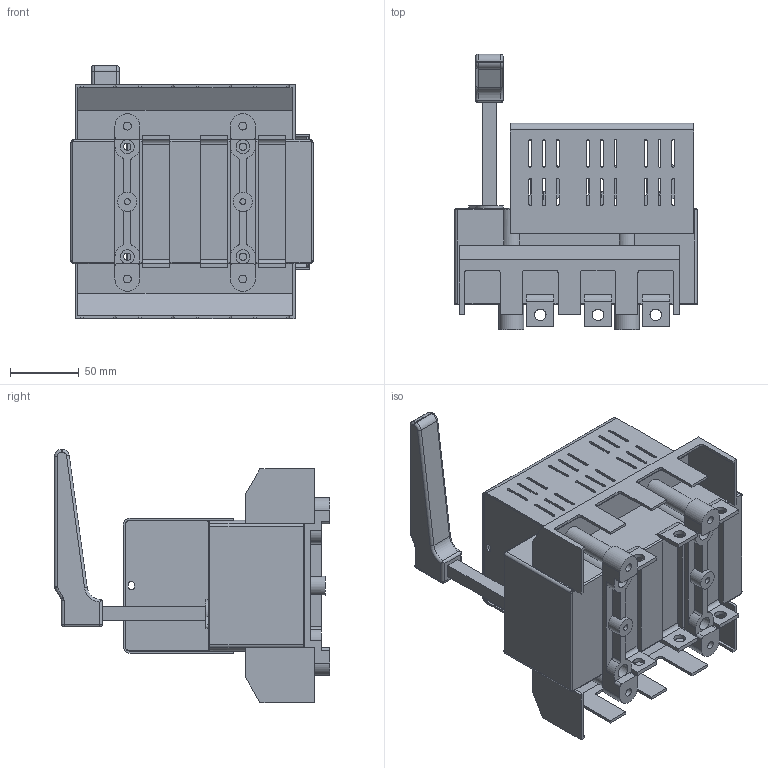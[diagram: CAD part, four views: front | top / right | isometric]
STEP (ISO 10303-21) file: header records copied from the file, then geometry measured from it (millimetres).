
FILE_DESCRIPTION(/* description */ (''),/* implementation_level */ '2;1');
FILE_NAME(/* name */ 'RAB 00 P3 C-R z oslona zaciskow.stp',/* time_stamp */ '2021-08-19T11:37:09+02:00',/* author */ (''),/* organization */ (''),/* preprocessor_version */ 'ST-DEVELOPER v18.1',/* originating_system */ 'SIEMENS PLM Software NX 1965',/* authorisation */ '');
FILE_SCHEMA (('AUTOMOTIVE_DESIGN { 1 0 10303 214 3 1 1 1 }'));
Length unit declared in the file: millimetre
Products named in the file (1): RAB 00 P3 C-R z oslona zaciskow
Bounding box: 176 x 200 x 183.9 mm (x, y, z)
Volume: 1362264.6 mm3; surface area: 292002.6 mm2
Topology: 1 solids, 1 shells, 1002 faces, 2875 edges, 1876 vertices
Faces by surface type: plane 610, cylinder 366, torus 12, bspline 8, sphere 6
Full cylindrical faces by diameter (mm): 2.7 x4, 4.3 x2, 5 x6, 5.3 x4, 5.8 x4, 8.5 x6, 10 x12, 13 x4, 14 x2
Entity records: 32902 total; most frequent: CARTESIAN_POINT 6090, ORIENTED_EDGE 5586, DIRECTION 5537, EDGE_CURVE 2793, LINE 1975, VECTOR 1975, VERTEX_POINT 1836, AXIS2_PLACEMENT_3D 1781
